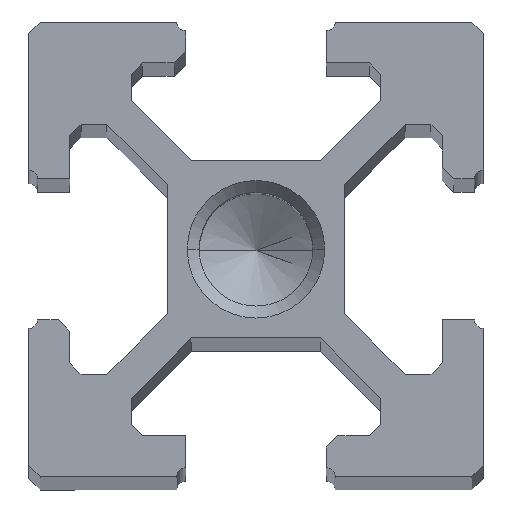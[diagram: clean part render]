
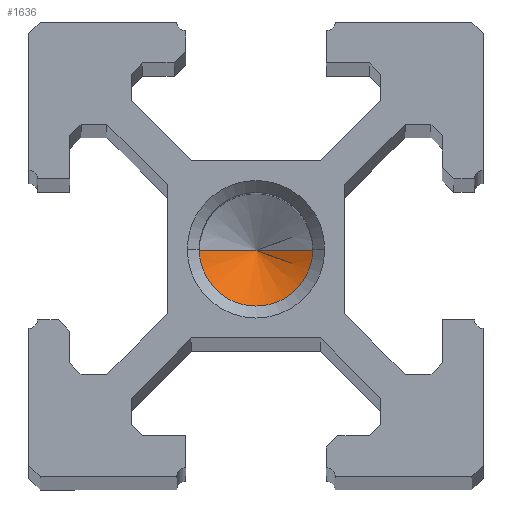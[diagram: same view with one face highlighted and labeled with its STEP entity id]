
A CAD part, top view. The second image highlights one B-rep face of the part: STEP entity #1636.
In plain terms, the highlighted conical face has half-angle 59 degrees and reference radius 2.5 mm.
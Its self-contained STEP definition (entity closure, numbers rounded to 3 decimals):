
#65 = CARTESIAN_POINT ( 'NONE',  ( 2.5, 0., 311.502 ) ) ;
#155 = ORIENTED_EDGE ( 'NONE', *, *, #1440, .F. ) ;
#274 = EDGE_LOOP ( 'NONE', ( #155, #331, #1394 ) ) ;
#287 = CARTESIAN_POINT ( 'NONE',  ( 0., 0., 311.502 ) ) ;
#331 = ORIENTED_EDGE ( 'NONE', *, *, #2583, .T. ) ;
#350 = VECTOR ( 'NONE', #483, 1000. ) ;
#393 = AXIS2_PLACEMENT_3D ( 'NONE', #2075, #2090, #2100 ) ;
#483 = DIRECTION ( 'NONE',  ( 0.857, 0., 0.515 ) ) ;
#708 = CARTESIAN_POINT ( 'NONE',  ( -2.5, 0., 311.502 ) ) ;
#833 = VECTOR ( 'NONE', #2348, 1000. ) ;
#871 = CONICAL_SURFACE ( 'NONE', #393, 2.5, 1.03 ) ;
#966 = AXIS2_PLACEMENT_3D ( 'NONE', #287, #1999, #2382 ) ;
#1077 = VERTEX_POINT ( 'NONE', #1372 ) ;
#1094 = LINE ( 'NONE', #65, #350 ) ;
#1218 = CIRCLE ( 'NONE', #966, 2.5 ) ;
#1256 = FACE_OUTER_BOUND ( 'NONE', #274, .T. ) ;
#1292 = VERTEX_POINT ( 'NONE', #1873 ) ;
#1372 = CARTESIAN_POINT ( 'NONE',  ( -2.5, 0., 311.502 ) ) ;
#1394 = ORIENTED_EDGE ( 'NONE', *, *, #1850, .T. ) ;
#1440 = EDGE_CURVE ( 'NONE', #1292, #1795, #1094, .T. ) ;
#1636 = ADVANCED_FACE ( 'NONE', ( #1256 ), #871, .F. ) ;
#1748 = CARTESIAN_POINT ( 'NONE',  ( 2.5, 0., 311.502 ) ) ;
#1795 = VERTEX_POINT ( 'NONE', #1748 ) ;
#1850 = EDGE_CURVE ( 'NONE', #1077, #1795, #1218, .T. ) ;
#1873 = CARTESIAN_POINT ( 'NONE',  ( 0., 0., 310. ) ) ;
#1999 = DIRECTION ( 'NONE',  ( 0., 0., 1. ) ) ;
#2075 = CARTESIAN_POINT ( 'NONE',  ( 0., 0., 311.502 ) ) ;
#2090 = DIRECTION ( 'NONE',  ( 0., 0., 1. ) ) ;
#2100 = DIRECTION ( 'NONE',  ( 1., 0., 0. ) ) ;
#2335 = LINE ( 'NONE', #708, #833 ) ;
#2348 = DIRECTION ( 'NONE',  ( -0.857, 0., 0.515 ) ) ;
#2382 = DIRECTION ( 'NONE',  ( 1., 0., 0. ) ) ;
#2583 = EDGE_CURVE ( 'NONE', #1292, #1077, #2335, .T. ) ;
